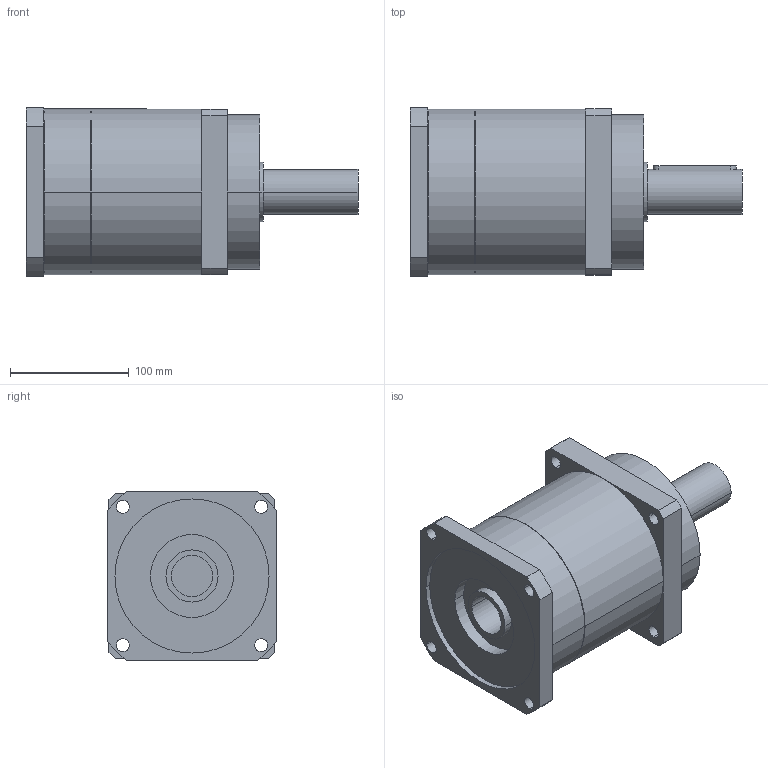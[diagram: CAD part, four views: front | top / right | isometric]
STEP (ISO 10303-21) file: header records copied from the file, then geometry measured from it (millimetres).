
FILE_DESCRIPTION(('CoCreate Modeling STEP Export'),'2;1');
FILE_NAME('GPR150_ig-3-4-5-7_38_B5_35_P05.stp','2014-08-19T16:43:13',(''),(''),'CoCreate Modeling STEP processor for AP214 (Solid Model)','CoCreate Modeling 16.00C 25-Feb-2009 (C) Parametric Technology GmbH','');
FILE_SCHEMA(('AUTOMOTIVE_DESIGN { 1 0 10303 214 1 1 1 1 }'));
Length unit declared in the file: millimetre
Products named in the file (2): GPR150_ig-3-4-5-7_38_B5_35_P05
Assembly tree (1 placements, depth 2):
  GPR150_ig-3-4-5-7_38_B5_35_P05
    GPR150_ig-3-4-5-7_38_B5_35_P05
Bounding box: 280 x 142 x 142 mm (x, y, z)
Volume: 3052619.3 mm3; surface area: 165890.9 mm2
Topology: 1 solids, 1 shells, 78 faces, 214 edges, 146 vertices
Faces by surface type: cylinder 46, plane 26, cone 6
Entity records: 2260 total; most frequent: ORIENTED_EDGE 424, CARTESIAN_POINT 421, DIRECTION 320, EDGE_CURVE 212, VERTEX_POINT 146, AXIS2_PLACEMENT_3D 117, EDGE_LOOP 104, VECTOR 86
